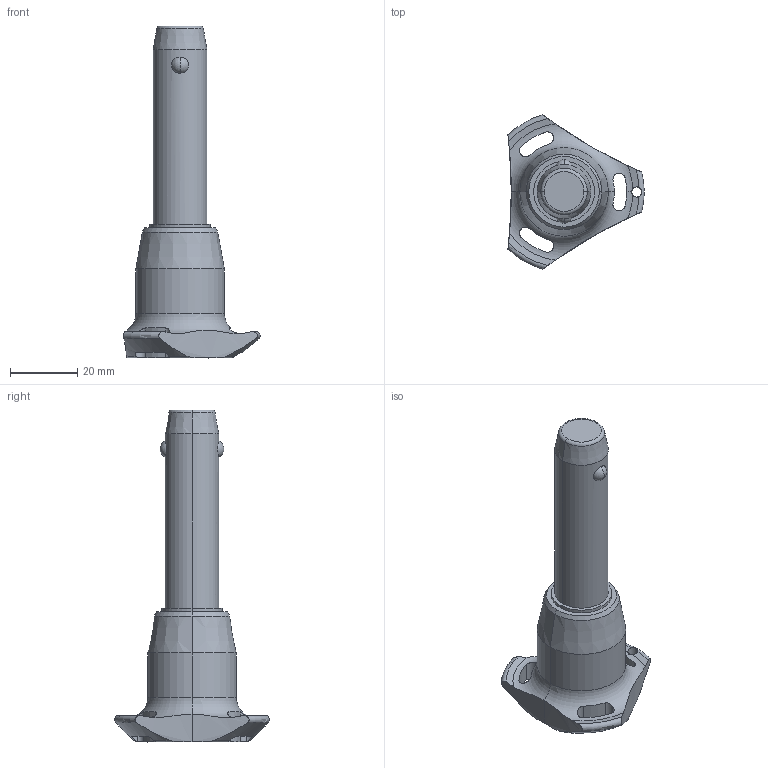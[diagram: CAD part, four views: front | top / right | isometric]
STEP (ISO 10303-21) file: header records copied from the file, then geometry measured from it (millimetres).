
FILE_DESCRIPTION (( 'STEP AP203' ), '1' );
FILE_NAME ('QR1734.M16-045-S.step', '2025-11-12T14:35:15', ( '' ), ( '' ), 'SwSTEP 2.0', 'SolidWorks 2019', '' );
FILE_SCHEMA (( 'CONFIG_CONTROL_DESIGN' ));
Length unit declared in the file: millimetre
Products named in the file (1): QR1734.M16-045-S
Bounding box: 40.5 x 45.88 x 98.7 mm (x, y, z)
Volume: 34144.5 mm3; surface area: 8920.5 mm2
Topology: 1 solids, 1 shells, 65 faces, 178 edges, 113 vertices
Faces by surface type: cylinder 30, cone 14, torus 11, sphere 6, plane 4
Entity records: 2870 total; most frequent: CARTESIAN_POINT 1181, ORIENTED_EDGE 356, DIRECTION 329, EDGE_CURVE 178, AXIS2_PLACEMENT_3D 147, VERTEX_POINT 113, CIRCLE 81, EDGE_LOOP 71
